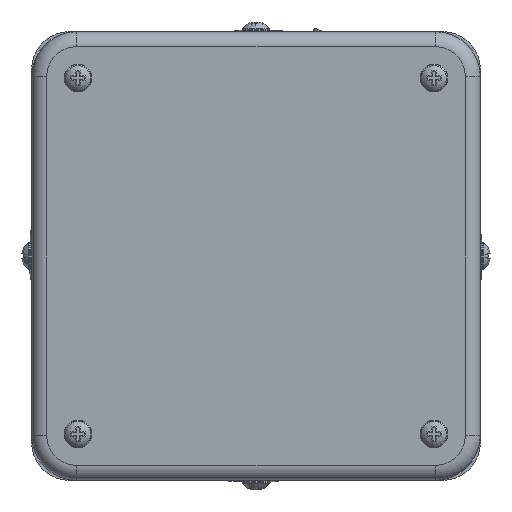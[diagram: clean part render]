
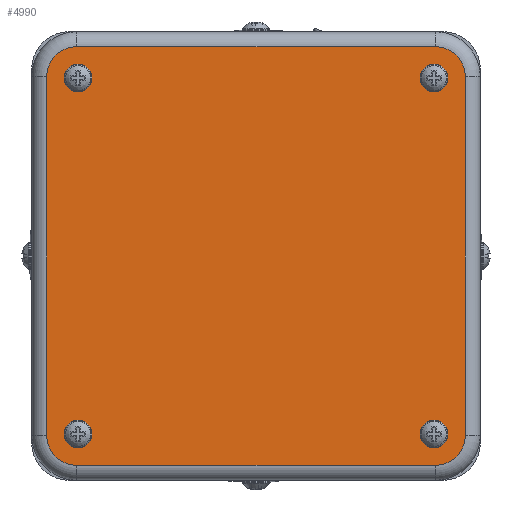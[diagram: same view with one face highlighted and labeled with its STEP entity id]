
A CAD part, left-side view. The second image highlights one B-rep face of the part: STEP entity #4990.
In plain terms, the highlighted planar face has unit normal (-1, 0, 0).
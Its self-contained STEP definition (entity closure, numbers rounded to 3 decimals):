
#245=FACE_BOUND('',#1014,.T.);
#246=FACE_BOUND('',#1015,.T.);
#247=FACE_BOUND('',#1016,.T.);
#248=FACE_BOUND('',#1017,.T.);
#419=PLANE('',#5463);
#685=FACE_OUTER_BOUND('',#1013,.T.);
#1013=EDGE_LOOP('',(#4312,#4313,#4314,#4315,#4316,#4317,#4318,#4319));
#1014=EDGE_LOOP('',(#4320));
#1015=EDGE_LOOP('',(#4321));
#1016=EDGE_LOOP('',(#4322));
#1017=EDGE_LOOP('',(#4323));
#1389=LINE('',#8752,#1762);
#1390=LINE('',#8756,#1763);
#1391=LINE('',#8760,#1764);
#1392=LINE('',#8763,#1765);
#1762=VECTOR('',#6633,72.);
#1763=VECTOR('',#6636,72.);
#1764=VECTOR('',#6639,72.);
#1765=VECTOR('',#6642,72.);
#1953=CIRCLE('',#5305,2.8);
#1964=CIRCLE('',#5334,2.8);
#2009=CIRCLE('',#5464,6.);
#2010=CIRCLE('',#5465,6.);
#2011=CIRCLE('',#5466,6.);
#2012=CIRCLE('',#5467,6.);
#2013=CIRCLE('',#5468,2.8);
#2014=CIRCLE('',#5469,2.8);
#2222=VERTEX_POINT('',#7521);
#2256=VERTEX_POINT('',#7724);
#2432=VERTEX_POINT('',#8748);
#2433=VERTEX_POINT('',#8749);
#2434=VERTEX_POINT('',#8751);
#2435=VERTEX_POINT('',#8753);
#2436=VERTEX_POINT('',#8755);
#2437=VERTEX_POINT('',#8757);
#2438=VERTEX_POINT('',#8759);
#2439=VERTEX_POINT('',#8761);
#2440=VERTEX_POINT('',#8764);
#2441=VERTEX_POINT('',#8766);
#2772=EDGE_CURVE('',#2222,#2222,#1953,.T.);
#2823=EDGE_CURVE('',#2256,#2256,#1964,.T.);
#3080=EDGE_CURVE('',#2432,#2433,#2009,.T.);
#3081=EDGE_CURVE('',#2434,#2432,#1389,.T.);
#3082=EDGE_CURVE('',#2435,#2434,#2010,.T.);
#3083=EDGE_CURVE('',#2436,#2435,#1390,.T.);
#3084=EDGE_CURVE('',#2437,#2436,#2011,.T.);
#3085=EDGE_CURVE('',#2438,#2437,#1391,.T.);
#3086=EDGE_CURVE('',#2439,#2438,#2012,.T.);
#3087=EDGE_CURVE('',#2433,#2439,#1392,.T.);
#3088=EDGE_CURVE('',#2440,#2440,#2013,.T.);
#3089=EDGE_CURVE('',#2441,#2441,#2014,.T.);
#4312=ORIENTED_EDGE('',*,*,#3080,.F.);
#4313=ORIENTED_EDGE('',*,*,#3081,.F.);
#4314=ORIENTED_EDGE('',*,*,#3082,.F.);
#4315=ORIENTED_EDGE('',*,*,#3083,.F.);
#4316=ORIENTED_EDGE('',*,*,#3084,.F.);
#4317=ORIENTED_EDGE('',*,*,#3085,.F.);
#4318=ORIENTED_EDGE('',*,*,#3086,.F.);
#4319=ORIENTED_EDGE('',*,*,#3087,.F.);
#4320=ORIENTED_EDGE('',*,*,#3088,.T.);
#4321=ORIENTED_EDGE('',*,*,#2772,.T.);
#4322=ORIENTED_EDGE('',*,*,#3089,.T.);
#4323=ORIENTED_EDGE('',*,*,#2823,.T.);
#4990=ADVANCED_FACE('',(#685,#245,#246,#247,#248),#419,.F.);
#5305=AXIS2_PLACEMENT_3D('',#7522,#6145,#6146);
#5334=AXIS2_PLACEMENT_3D('',#7725,#6229,#6230);
#5463=AXIS2_PLACEMENT_3D('',#8747,#6629,#6630);
#5464=AXIS2_PLACEMENT_3D('',#8750,#6631,#6632);
#5465=AXIS2_PLACEMENT_3D('',#8754,#6634,#6635);
#5466=AXIS2_PLACEMENT_3D('',#8758,#6637,#6638);
#5467=AXIS2_PLACEMENT_3D('',#8762,#6640,#6641);
#5468=AXIS2_PLACEMENT_3D('',#8765,#6643,#6644);
#5469=AXIS2_PLACEMENT_3D('',#8767,#6645,#6646);
#6145=DIRECTION('center_axis',(1.,0.,0.));
#6146=DIRECTION('ref_axis',(0.,-1.,0.));
#6229=DIRECTION('center_axis',(1.,0.,0.));
#6230=DIRECTION('ref_axis',(0.,-1.,0.));
#6629=DIRECTION('center_axis',(1.,0.,0.));
#6630=DIRECTION('ref_axis',(0.,1.,0.));
#6631=DIRECTION('center_axis',(1.,0.,0.));
#6632=DIRECTION('ref_axis',(0.,0.707,-0.707));
#6633=DIRECTION('',(0.,1.,0.));
#6634=DIRECTION('center_axis',(1.,0.,0.));
#6635=DIRECTION('ref_axis',(0.,-0.707,-0.707));
#6636=DIRECTION('',(0.,0.,-1.));
#6637=DIRECTION('center_axis',(1.,0.,0.));
#6638=DIRECTION('ref_axis',(0.,-0.707,0.707));
#6639=DIRECTION('',(0.,-1.,0.));
#6640=DIRECTION('center_axis',(1.,0.,0.));
#6641=DIRECTION('ref_axis',(0.,0.707,0.707));
#6642=DIRECTION('',(0.,0.,1.));
#6643=DIRECTION('center_axis',(1.,0.,0.));
#6644=DIRECTION('ref_axis',(0.,-1.,0.));
#6645=DIRECTION('center_axis',(1.,0.,0.));
#6646=DIRECTION('ref_axis',(0.,-1.,0.));
#7521=CARTESIAN_POINT('',(-123.672,-31.097,-23.376));
#7522=CARTESIAN_POINT('Origin',(-123.672,-33.897,-23.376));
#7724=CARTESIAN_POINT('',(-123.672,40.32,-23.376));
#7725=CARTESIAN_POINT('Origin',(-123.672,37.52,-23.376));
#8747=CARTESIAN_POINT('Origin',(-123.672,8.839,5.306));
#8748=CARTESIAN_POINT('',(-123.672,37.811,-29.667));
#8749=CARTESIAN_POINT('',(-123.672,43.811,-23.667));
#8750=CARTESIAN_POINT('Origin',(-123.672,37.811,-23.667));
#8751=CARTESIAN_POINT('',(-123.672,-34.189,-29.667));
#8752=CARTESIAN_POINT('',(-123.672,-34.189,-29.667));
#8753=CARTESIAN_POINT('',(-123.672,-40.189,-23.667));
#8754=CARTESIAN_POINT('Origin',(-123.672,-34.189,-23.667));
#8755=CARTESIAN_POINT('',(-123.672,-40.189,48.333));
#8756=CARTESIAN_POINT('',(-123.672,-40.189,48.333));
#8757=CARTESIAN_POINT('',(-123.672,-34.189,54.333));
#8758=CARTESIAN_POINT('Origin',(-123.672,-34.189,48.333));
#8759=CARTESIAN_POINT('',(-123.672,37.811,54.333));
#8760=CARTESIAN_POINT('',(-123.672,37.811,54.333));
#8761=CARTESIAN_POINT('',(-123.672,43.811,48.333));
#8762=CARTESIAN_POINT('Origin',(-123.672,37.811,48.333));
#8763=CARTESIAN_POINT('',(-123.672,43.811,-23.667));
#8764=CARTESIAN_POINT('',(-123.672,-31.097,48.042));
#8765=CARTESIAN_POINT('Origin',(-123.672,-33.897,48.042));
#8766=CARTESIAN_POINT('',(-123.672,40.32,48.042));
#8767=CARTESIAN_POINT('Origin',(-123.672,37.52,48.042));
